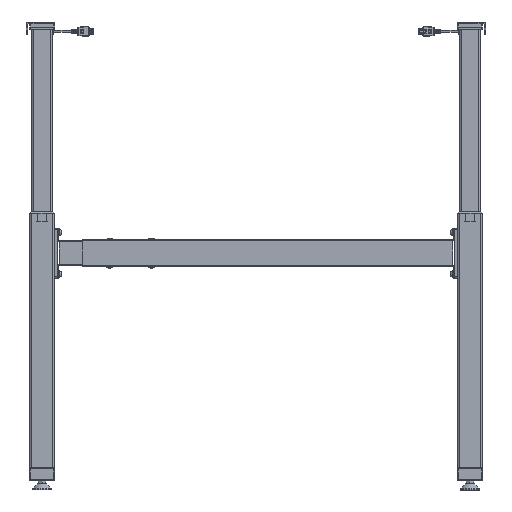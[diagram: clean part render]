
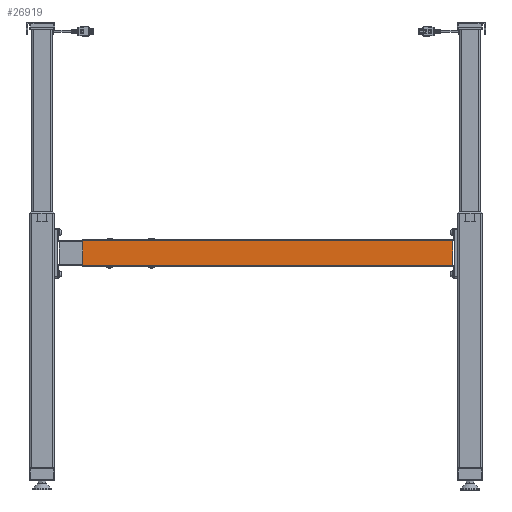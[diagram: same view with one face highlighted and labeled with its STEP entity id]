
A CAD part, left-side view. The second image highlights one B-rep face of the part: STEP entity #26919.
In plain terms, the highlighted planar face has unit normal (-1, 0, 0) as drawn and (0, 0, -1) by its records, which use the part's own axes.
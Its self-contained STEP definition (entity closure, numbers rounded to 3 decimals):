
#6005=ORIENTED_EDGE('',*,*,#10278,.F.);
#6006=ORIENTED_EDGE('',*,*,#10264,.T.);
#6007=ORIENTED_EDGE('',*,*,#10279,.F.);
#6008=ORIENTED_EDGE('',*,*,#10272,.T.);
#10264=EDGE_CURVE('',#12719,#12720,#14769,.T.);
#10272=EDGE_CURVE('',#12727,#12728,#14773,.T.);
#10278=EDGE_CURVE('',#12719,#12728,#14777,.T.);
#10279=EDGE_CURVE('',#12727,#12720,#14778,.T.);
#12719=VERTEX_POINT('',#42010);
#12720=VERTEX_POINT('',#42011);
#12727=VERTEX_POINT('',#42028);
#12728=VERTEX_POINT('',#42029);
#14769=LINE('',#42009,#16691);
#14773=LINE('',#42027,#16695);
#14777=LINE('',#42039,#16699);
#14778=LINE('',#42040,#16700);
#16691=VECTOR('',#33675,1000.);
#16695=VECTOR('',#33691,1000.);
#16699=VECTOR('',#33703,1000.);
#16700=VECTOR('',#33704,1000.);
#18280=EDGE_LOOP('',(#6005,#6006,#6007,#6008));
#19902=FACE_BOUND('',#18280,.T.);
#21024=PLANE('',#28847);
#26919=ADVANCED_FACE('',(#19902),#21024,.T.);
#28847=AXIS2_PLACEMENT_3D('',#42038,#33701,#33702);
#33675=DIRECTION('',(-1.,0.,0.));
#33691=DIRECTION('',(1.,0.,0.));
#33701=DIRECTION('',(0.,0.,-1.));
#33702=DIRECTION('',(-1.,0.,0.));
#33703=DIRECTION('',(0.,1.,0.));
#33704=DIRECTION('',(0.,-1.,0.));
#42009=CARTESIAN_POINT('',(887.7,-29.9,-2.5));
#42010=CARTESIAN_POINT('',(887.7,-29.9,-2.5));
#42011=CARTESIAN_POINT('',(0.,-29.9,-2.5));
#42027=CARTESIAN_POINT('',(0.,29.9,-2.5));
#42028=CARTESIAN_POINT('',(0.,29.9,-2.5));
#42029=CARTESIAN_POINT('',(887.7,29.9,-2.5));
#42038=CARTESIAN_POINT('',(0.,0.,-2.5));
#42039=CARTESIAN_POINT('',(887.7,-32.5,-2.5));
#42040=CARTESIAN_POINT('',(0.,-32.5,-2.5));
